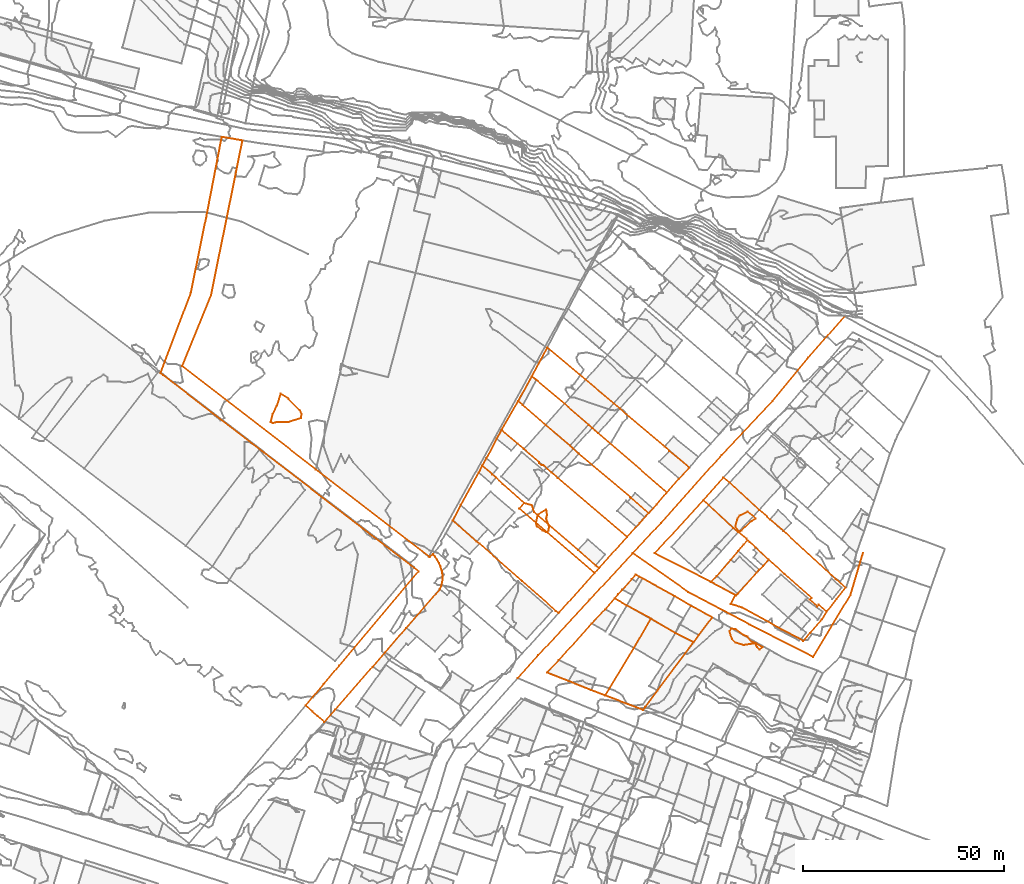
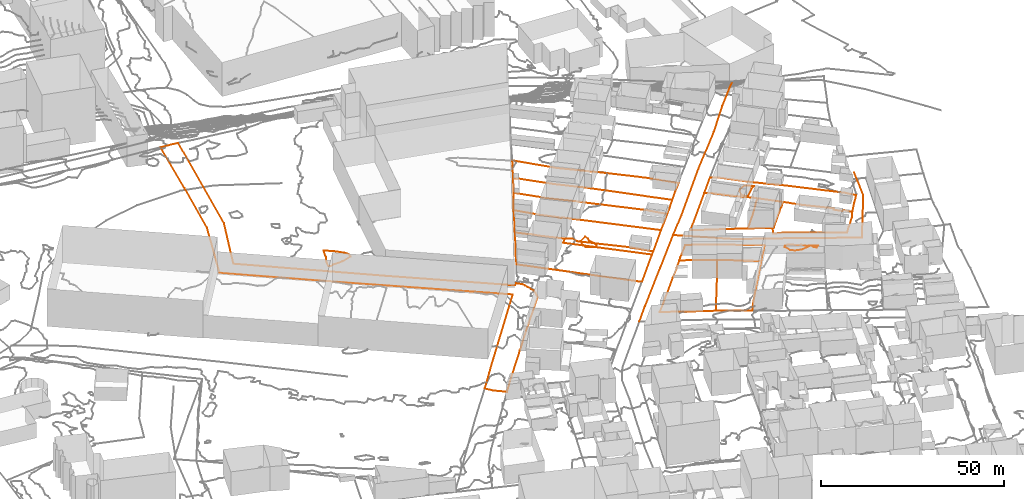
# Not in any storey, part 259 of 419: 21 proxies.
"""IFC2X3 model written with IfcOpenShell, lengths in metres."""

from ifc_helpers import new_model, entity, si_unit, frame, origin_with_axes, place, context, subcontext, project, element, save


model = new_model("IFC2X3")

# Units and contexts
model_context = context("Model", 3, precision=1e-05, world=origin_with_axes())
body_context = subcontext(model_context, "Body", "Model", "MODEL_VIEW")
ifc_project = project(units=[si_unit("AREAUNIT", "SQUARE_METRE"), si_unit("LENGTHUNIT", "METRE")], contexts=[model_context])

# Proxies
proxy_1_placement = place(None, frame((890.9920204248, 221.1976909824, 79.6), z_axis=(0.0, 0.0, 1.0), x_axis=(1.0, 0.0, 0.0)))
element("IfcBuildingElementProxy", 1, at=proxy_1_placement, Name="Route 211", ObjectType="NOTDEFINED", context=body_context, shape_type="GeometricCurveSet", body=[
    entity("IfcGeometricCurveSet", [entity("IfcPolyline", [entity("IfcCartesianPoint", [28.6, 31.1000000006, 0.0]), entity("IfcCartesianPoint", [17.9, 19.5, 0.0]), entity("IfcCartesianPoint", [5.1, 5.7000000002, 0.0]), entity("IfcCartesianPoint", [0.0, 0.0, 0.0])])]),
])
proxy_2_placement = place(None, frame((919.5920204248, 252.2976909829, 79.6), z_axis=(0.0, 0.0, 1.0), x_axis=(1.0, 0.0, 0.0)))
element("IfcBuildingElementProxy", 2, at=proxy_2_placement, Name="Route 225", ObjectType="NOTDEFINED", context=body_context, shape_type="GeometricCurveSet", body=[
    entity("IfcGeometricCurveSet", [entity("IfcPolyline", [entity("IfcCartesianPoint", [57.3, 0.2999999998, 1.0]), entity("IfcCartesianPoint", [54.1, -10.4000000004, 0.7]), entity("IfcCartesianPoint", [44.8, -25.8000000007, -0.9]), entity("IfcCartesianPoint", [29.1, -17.8000000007, -0.4]), entity("IfcCartesianPoint", [13.8, -9.7000000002, -0.3]), entity("IfcCartesianPoint", [0.0, 0.0, 0.0])])]),
])
proxy_3_placement = place(None, frame((919.5920204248, 252.2976909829, 79.6), z_axis=(0.0, 0.0, 1.0), x_axis=(1.0, 0.0, 0.0)))
element("IfcBuildingElementProxy", 3, at=proxy_3_placement, Name="Route 309", ObjectType="NOTDEFINED", context=body_context, shape_type="GeometricCurveSet", body=[
    entity("IfcGeometricCurveSet", [entity("IfcPolyline", [entity("IfcCartesianPoint", [52.6, 58.7999999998, -2.9]), entity("IfcCartesianPoint", [43.6, 48.5999999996, -1.7]), entity("IfcCartesianPoint", [34.7, 37.7999999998, -0.6]), entity("IfcCartesianPoint", [22.1, 24.3999999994, -0.4]), entity("IfcCartesianPoint", [7.0, 7.5, -0.3]), entity("IfcCartesianPoint", [0.0, 0.0, 0.0])])]),
])
proxy_4_placement = place(None, frame((802.1720204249, 297.0576909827, 81.0061424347), z_axis=(0.0, 0.0, 1.0), x_axis=(1.0, 0.0, 0.0)))
element("IfcBuildingElementProxy", 4, at=proxy_4_placement, Name="Cadastre 125", ObjectType="NOTDEFINED", context=body_context, shape_type="GeometricCurveSet", body=[
    entity("IfcGeometricCurveSet", [entity("IfcPolyline", [entity("IfcCartesianPoint", [36.0599999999, -82.6600000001, -1.1881410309]), entity("IfcCartesianPoint", [40.5599999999, -77.3200000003, -0.8971972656]), entity("IfcCartesianPoint", [44.46, -72.6900000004, -0.4227807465]), entity("IfcCartesianPoint", [64.1499999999, -49.2999999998, 0.1599864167]), entity("IfcCartesianPoint", [25.75, -19.8300000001, -0.0378355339]), entity("IfcCartesianPoint", [0.6299999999, -0.5200000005, 0.0050272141]), entity("IfcCartesianPoint", [0.0, 0.0, 0.0]), entity("IfcCartesianPoint", [7.5499999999, 19.9100000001, 0.4123396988]), entity("IfcCartesianPoint", [11.4199999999, 38.9400000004, 0.7218559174]), entity("IfcCartesianPoint", [15.25, 58.71, 0.9673117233]), entity("IfcCartesianPoint", [20.37, 57.8099999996, 1.1653908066]), entity("IfcCartesianPoint", [12.59, 19.3300000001, 0.4735268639]), entity("IfcCartesianPoint", [5.3999999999, 1.71, 0.0499853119]), entity("IfcCartesianPoint", [38.62, -23.9500000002, -0.05664422]), entity("IfcCartesianPoint", [66.73, -45.6600000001, 0.1138603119]), entity("IfcCartesianPoint", [66.8899999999, -45.7800000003, 0.124095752]), entity("IfcCartesianPoint", [67.7599999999, -45.0300000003, 0.0634591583]), entity("IfcCartesianPoint", [68.3099999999, -45.6500000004, 0.1130602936]), entity("IfcCartesianPoint", [68.7799999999, -46.3499999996, 0.1463409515]), entity("IfcCartesianPoint", [69.24, -47.1900000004, 0.1518660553]), entity("IfcCartesianPoint", [69.61, -48.1100000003, 0.0489033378]), entity("IfcCartesianPoint", [69.96, -49.2300000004, -0.0370956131]), entity("IfcCartesianPoint", [70.1799999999, -50.2800000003, -0.0241320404]), entity("IfcCartesianPoint", [70.1499999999, -51.3799999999, -0.0537529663]), entity("IfcCartesianPoint", [69.8999999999, -52.5599999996, 0.0067378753]), entity("IfcCartesianPoint", [69.45, -53.79, 0.0761588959]), entity("IfcCartesianPoint", [61.0699999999, -63.3700000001, 0.1166873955]), entity("IfcCartesianPoint", [55.7999999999, -69.4800000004, 0.0792553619]), entity("IfcCartesianPoint", [52.71, -73.04, -0.2551417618]), entity("IfcCartesianPoint", [43.45, -83.6900000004, -0.7202065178]), entity("IfcCartesianPoint", [40.73, -86.7199999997, -1.4911015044]), entity("IfcCartesianPoint", [39.09, -85.3200000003, -1.4730351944]), entity("IfcCartesianPoint", [37.7699999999, -84.1900000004, -1.5097253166]), entity("IfcCartesianPoint", [36.0599999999, -82.6600000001, -1.1881410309])])]),
])
proxy_5_placement = place(None, frame((874.8520204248, 260.377690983, 80.5659312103), z_axis=(0.0, 0.0, 1.0), x_axis=(1.0, 0.0, 0.0)))
element("IfcBuildingElementProxy", 5, at=proxy_5_placement, Name="Cadastre 135", ObjectType="NOTDEFINED", context=body_context, shape_type="GeometricCurveSet", body=[
    entity("IfcGeometricCurveSet", [entity("IfcPolyline", [entity("IfcCartesianPoint", [0.0, 0.0, 0.0]), entity("IfcCartesianPoint", [1.97, 3.8399999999, -0.1697979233]), entity("IfcCartesianPoint", [6.4300000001, 11.8899999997, -0.1879224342]), entity("IfcCartesianPoint", [7.3200000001, 13.6299999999, -0.1724313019]), entity("IfcCartesianPoint", [9.83, 11.4799999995, -0.2291045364]), entity("IfcCartesianPoint", [10.72, 10.6699999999, -0.1506410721]), entity("IfcCartesianPoint", [12.41, 9.0899999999, -0.2661220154]), entity("IfcCartesianPoint", [17.73, 4.3499999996, -0.2363999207]), entity("IfcCartesianPoint", [16.49, 3.0199999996, -0.3909338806]), entity("IfcCartesianPoint", [35.1900000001, -13.0800000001, -1.1275797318]), entity("IfcCartesianPoint", [26.28, -23.0200000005, -1.0525640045]), entity("IfcCartesianPoint", [25.6, -22.4400000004, -1.0268415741]), entity("IfcCartesianPoint", [17.22, -15.0700000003, -0.7350625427]), entity("IfcCartesianPoint", [6.63, -5.75, -0.2971978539]), entity("IfcCartesianPoint", [5.9, -5.2700000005, -0.2106531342]), entity("IfcCartesianPoint", [0.0, 0.0, 0.0])])]),
])
proxy_6_placement = place(None, frame((882.1720204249, 274.0076909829, 80.3934999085), z_axis=(0.0, 0.0, 1.0), x_axis=(1.0, 0.0, 0.0)))
element("IfcBuildingElementProxy", 6, at=proxy_6_placement, Name="Cadastre 140", ObjectType="NOTDEFINED", context=body_context, shape_type="GeometricCurveSet", body=[
    entity("IfcGeometricCurveSet", [entity("IfcPolyline", [entity("IfcCartesianPoint", [0.0, 0.0, 0.0]), entity("IfcCartesianPoint", [1.0599999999, 1.8499999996, 0.0182765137]), entity("IfcCartesianPoint", [3.62, 6.71, 0.0169789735]), entity("IfcCartesianPoint", [4.7599999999, 8.8899999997, 0.3666018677]), entity("IfcCartesianPoint", [8.7599999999, 5.4500000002, -0.0576865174]), entity("IfcCartesianPoint", [10.36, 4.1299999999, -0.2642066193]), entity("IfcCartesianPoint", [14.12, 0.8700000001, -0.3478988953]), entity("IfcCartesianPoint", [14.11, 0.6200000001, -0.352699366]), entity("IfcCartesianPoint", [14.74, 0.1699999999, -0.3742998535]), entity("IfcCartesianPoint", [15.1, 0.2000000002, -0.3808991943]), entity("IfcCartesianPoint", [17.25, -1.7400000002, -0.455477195]), entity("IfcCartesianPoint", [18.7699999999, -3.0200000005, -0.4890596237]), entity("IfcCartesianPoint", [35.95, -17.7300000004, -1.0575199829]), entity("IfcCartesianPoint", [29.0299999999, -25.4300000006, -1.029699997]), entity("IfcCartesianPoint", [28.1599999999, -24.8100000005, -0.9295803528]), entity("IfcCartesianPoint", [23.8199999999, -20.9700000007, -0.5182984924]), entity("IfcCartesianPoint", [12.9399999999, -11.5800000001, -0.4377741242]), entity("IfcCartesianPoint", [12.3899999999, -9.8500000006, -0.3820946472]), entity("IfcCartesianPoint", [10.4099999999, -9.2800000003, -0.0639686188]), entity("IfcCartesianPoint", [5.09, -4.54, -0.0936907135]), entity("IfcCartesianPoint", [3.3999999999, -2.96, 0.0217902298]), entity("IfcCartesianPoint", [2.5099999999, -2.1500000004, -0.0566732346]), entity("IfcCartesianPoint", [0.0, 0.0, 0.0])])]),
])
proxy_7_placement = place(None, frame((891.3420204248, 263.3976909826, 80.1749973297), z_axis=(0.0, 0.0, 1.0), x_axis=(1.0, 0.0, 0.0)))
element("IfcBuildingElementProxy", 7, at=proxy_7_placement, Name="Cadastre 141", ObjectType="NOTDEFINED", context=body_context, shape_type="GeometricCurveSet", body=[
    entity("IfcGeometricCurveSet", [entity("IfcPolyline", [entity("IfcCartesianPoint", [1.24, 1.3300000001, 0.15453396]), entity("IfcCartesianPoint", [3.22, 0.7599999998, -0.1635920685]), entity("IfcCartesianPoint", [3.77, -0.9699999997, -0.2192715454]), entity("IfcCartesianPoint", [14.65, -10.3600000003, -0.2997959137]), entity("IfcCartesianPoint", [18.99, -14.2000000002, -0.7110777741]), entity("IfcCartesianPoint", [19.86, -14.8200000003, -0.8111974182]), entity("IfcCartesianPoint", [18.7000000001, -16.0999999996, -0.7366458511]), entity("IfcCartesianPoint", [0.0, 0.0, 0.0]), entity("IfcCartesianPoint", [1.24, 1.3300000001, 0.15453396])])]),
])
proxy_8_placement = place(None, frame((886.9320204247, 282.8976909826, 80.7601017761), z_axis=(0.0, 0.0, 1.0), x_axis=(1.0, 0.0, 0.0)))
element("IfcBuildingElementProxy", 8, at=proxy_8_placement, Name="Cadastre 142", ObjectType="NOTDEFINED", context=body_context, shape_type="GeometricCurveSet", body=[
    entity("IfcGeometricCurveSet", [entity("IfcPolyline", [entity("IfcCartesianPoint", [0.0, 0.0, 0.0]), entity("IfcCartesianPoint", [4.15, 7.1299999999, 0.0202536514]), entity("IfcCartesianPoint", [5.3300000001, 6.1799999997, -0.0883565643]), entity("IfcCartesianPoint", [10.9900000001, 1.2199999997, -0.5075729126]), entity("IfcCartesianPoint", [17.02, -3.9399999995, -0.5081487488]), entity("IfcCartesianPoint", [17.8600000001, -4.5999999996, -0.5658999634]), entity("IfcCartesianPoint", [19.2200000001, -5.9199999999, -0.5851026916]), entity("IfcCartesianPoint", [31.9800000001, -16.6299999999, -1.0184043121]), entity("IfcCartesianPoint", [32.3, -16.9199999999, -1.0579034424]), entity("IfcCartesianPoint", [36.5600000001, -20.7199999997, -1.4826845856]), entity("IfcCartesianPoint", [34.41, -23.0999999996, -1.4436024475]), entity("IfcCartesianPoint", [31.1900000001, -26.6200000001, -1.4241218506]), entity("IfcCartesianPoint", [14.01, -11.9100000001, -0.8556614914]), entity("IfcCartesianPoint", [12.4900000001, -10.6299999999, -0.8220790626]), entity("IfcCartesianPoint", [10.3400000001, -8.6899999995, -0.747501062]), entity("IfcCartesianPoint", [9.9800000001, -8.7199999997, -0.7409017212]), entity("IfcCartesianPoint", [9.3500000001, -8.2699999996, -0.7193012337]), entity("IfcCartesianPoint", [9.3600000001, -8.0199999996, -0.7145007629]), entity("IfcCartesianPoint", [5.6000000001, -4.7599999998, -0.6308084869]), entity("IfcCartesianPoint", [4.0, -3.4399999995, -0.424288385]), entity("IfcCartesianPoint", [0.0, 0.0, 0.0])])]),
])
proxy_9_placement = place(None, frame((891.0820204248, 290.0276909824, 80.7803554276), z_axis=(0.0, 0.0, 1.0), x_axis=(1.0, 0.0, 0.0)))
element("IfcBuildingElementProxy", 9, at=proxy_9_placement, Name="Cadastre 143", ObjectType="NOTDEFINED", context=body_context, shape_type="GeometricCurveSet", body=[
    entity("IfcGeometricCurveSet", [entity("IfcPolyline", [entity("IfcCartesianPoint", [0.0, 0.0, 0.0]), entity("IfcCartesianPoint", [3.37, 6.1900000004, -0.0436612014]), entity("IfcCartesianPoint", [4.55, 5.29, -0.0422414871]), entity("IfcCartesianPoint", [11.52, -0.6299999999, -0.6011551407]), entity("IfcCartesianPoint", [17.51, -5.8700000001, -0.6207536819]), entity("IfcCartesianPoint", [18.36, -6.6200000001, -0.5824276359]), entity("IfcCartesianPoint", [19.88, -7.9399999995, -0.6405150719]), entity("IfcCartesianPoint", [36.9500000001, -22.6499999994, -1.5485561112]), entity("IfcCartesianPoint", [34.4, -25.6600000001, -1.5257194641]), entity("IfcCartesianPoint", [32.41, -27.8499999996, -1.502938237]), entity("IfcCartesianPoint", [28.15, -24.0499999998, -1.0781570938]), entity("IfcCartesianPoint", [27.8300000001, -23.7599999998, -1.0386579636]), entity("IfcCartesianPoint", [15.0700000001, -13.0499999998, -0.6053563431]), entity("IfcCartesianPoint", [13.7100000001, -11.7299999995, -0.5861536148]), entity("IfcCartesianPoint", [12.87, -11.0699999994, -0.5284024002]), entity("IfcCartesianPoint", [6.8400000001, -5.9100000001, -0.527826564]), entity("IfcCartesianPoint", [1.1800000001, -0.9500000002, -0.1086102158]), entity("IfcCartesianPoint", [0.0, 0.0, 0.0])])]),
])
proxy_10_placement = place(None, frame((894.4520204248, 296.2176909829, 80.7366942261), z_axis=(0.0, 0.0, 1.0), x_axis=(1.0, 0.0, 0.0)))
element("IfcBuildingElementProxy", 10, at=proxy_10_placement, Name="Cadastre 144", ObjectType="NOTDEFINED", context=body_context, shape_type="GeometricCurveSet", body=[
    entity("IfcGeometricCurveSet", [entity("IfcPolyline", [entity("IfcCartesianPoint", [0.0, 0.0, 0.0]), entity("IfcCartesianPoint", [3.88, 7.1799999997, 0.2611033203]), entity("IfcCartesianPoint", [13.4, -0.8300000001, -0.7990923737]), entity("IfcCartesianPoint", [20.36, -6.7000000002, -0.7703575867]), entity("IfcCartesianPoint", [21.9300000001, -8.0600000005, -0.709705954]), entity("IfcCartesianPoint", [33.0800000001, -17.4500000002, -0.9741509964]), entity("IfcCartesianPoint", [34.2100000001, -18.5200000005, -1.0394968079]), entity("IfcCartesianPoint", [39.1900000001, -22.7000000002, -1.5664310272]), entity("IfcCartesianPoint", [36.5900000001, -25.4699999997, -1.542144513]), entity("IfcCartesianPoint", [33.5800000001, -28.8399999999, -1.5048949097]), entity("IfcCartesianPoint", [16.51, -14.1299999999, -0.5968538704]), entity("IfcCartesianPoint", [14.99, -12.8100000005, -0.5387664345]), entity("IfcCartesianPoint", [14.14, -12.0600000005, -0.5770924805]), entity("IfcCartesianPoint", [8.15, -6.8200000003, -0.5574939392]), entity("IfcCartesianPoint", [1.1800000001, -0.9000000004, 0.0014197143]), entity("IfcCartesianPoint", [0.0, 0.0, 0.0])])]),
])
proxy_11_placement = place(None, frame((898.2420204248, 222.5976909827, 79.3320999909), z_axis=(0.0, 0.0, 1.0), x_axis=(1.0, 0.0, 0.0)))
element("IfcBuildingElementProxy", 11, at=proxy_11_placement, Name="Cadastre 145", ObjectType="NOTDEFINED", context=body_context, shape_type="GeometricCurveSet", body=[
    entity("IfcGeometricCurveSet", [entity("IfcPolyline", [entity("IfcCartesianPoint", [16.79, 18.4100000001, 0.219586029]), entity("IfcCartesianPoint", [19.86, 16.6799999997, 0.3203011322]), entity("IfcCartesianPoint", [25.84, 13.4100000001, 0.3000212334]), entity("IfcCartesianPoint", [21.6, 6.0599999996, 0.1330001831]), entity("IfcCartesianPoint", [14.46, -5.6900000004, -1.1164365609]), entity("IfcCartesianPoint", [11.0, -4.3600000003, -0.8966195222]), entity("IfcCartesianPoint", [5.35, -2.1100000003, -0.355900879]), entity("IfcCartesianPoint", [0.0, 0.0, 0.0]), entity("IfcCartesianPoint", [2.97, 3.0800000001, 0.2554347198]), entity("IfcCartesianPoint", [11.1, 12.1600000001, 0.1529988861]), entity("IfcCartesianPoint", [14.47, 15.71, 0.1364913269]), entity("IfcCartesianPoint", [16.79, 18.4100000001, 0.219586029])])]),
])
proxy_12_placement = place(None, frame((915.0320204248, 241.0076909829, 79.5516860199), z_axis=(0.0, 0.0, 1.0), x_axis=(1.0, 0.0, 0.0)))
element("IfcBuildingElementProxy", 12, at=proxy_12_placement, Name="Cadastre 150", ObjectType="NOTDEFINED", context=body_context, shape_type="GeometricCurveSet", body=[
    entity("IfcGeometricCurveSet", [entity("IfcPolyline", [entity("IfcCartesianPoint", [24.2999999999, -4.6900000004, -0.5025441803]), entity("IfcCartesianPoint", [20.9299999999, -9.1299999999, -0.3812574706]), entity("IfcCartesianPoint", [19.64, -10.8900000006, -0.4404845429]), entity("IfcCartesianPoint", [15.11, -8.5800000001, -0.1146834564]), entity("IfcCartesianPoint", [9.0499999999, -5.0, 0.0804352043]), entity("IfcCartesianPoint", [3.0699999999, -1.7300000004, 0.1007151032]), entity("IfcCartesianPoint", [0.0, 0.0, 0.0]), entity("IfcCartesianPoint", [0.95, 1.0599999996, -0.0290852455]), entity("IfcCartesianPoint", [1.95, 2.1600000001, -0.0854903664]), entity("IfcCartesianPoint", [4.33, 4.7999999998, -0.1962304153]), entity("IfcCartesianPoint", [5.2699999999, 5.8999999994, -0.23904309]), entity("IfcCartesianPoint", [6.1599999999, 5.3899999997, -0.2436843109]), entity("IfcCartesianPoint", [6.99, 4.9799999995, -0.2253205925]), entity("IfcCartesianPoint", [14.95, 0.5699999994, -0.246664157]), entity("IfcCartesianPoint", [19.0399999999, -1.8399999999, -0.3968131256]), entity("IfcCartesianPoint", [24.2999999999, -4.6900000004, -0.5025441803])])]),
])
proxy_13_placement = place(None, frame((912.7020204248, 216.9076909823, 78.2156634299), z_axis=(0.0, 0.0, 1.0), x_axis=(1.0, 0.0, 0.0)))
element("IfcBuildingElementProxy", 13, at=proxy_13_placement, Name="Cadastre 151", ObjectType="NOTDEFINED", context=body_context, shape_type="GeometricCurveSet", body=[
    entity("IfcGeometricCurveSet", [entity("IfcPolyline", [entity("IfcCartesianPoint", [21.9700000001, 13.21, 0.8955380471]), entity("IfcCartesianPoint", [13.0, 1.1800000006, 0.51953911]), entity("IfcCartesianPoint", [9.98, -2.8599999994, -0.4179345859]), entity("IfcCartesianPoint", [9.4400000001, -3.5999999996, -1.0886429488]), entity("IfcCartesianPoint", [0.0, 0.0, 0.0]), entity("IfcCartesianPoint", [7.14, 11.75, 1.249436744]), entity("IfcCartesianPoint", [11.38, 19.1000000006, 1.4164577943]), entity("IfcCartesianPoint", [17.4400000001, 15.5200000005, 1.2213391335]), entity("IfcCartesianPoint", [21.9700000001, 13.21, 0.8955380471])])]),
])
proxy_14_placement = place(None, frame((925.0620204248, 252.2376909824, 79.3228123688), z_axis=(0.0, 0.0, 1.0), x_axis=(1.0, 0.0, 0.0)))
element("IfcBuildingElementProxy", 14, at=proxy_14_placement, Name="Cadastre 160", ObjectType="NOTDEFINED", context=body_context, shape_type="GeometricCurveSet", body=[
    entity("IfcGeometricCurveSet", [entity("IfcPolyline", [entity("IfcCartesianPoint", [13.9400000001, -7.1099999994, 0.063736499]), entity("IfcCartesianPoint", [0.0, 0.0, 0.0]), entity("IfcCartesianPoint", [11.9600000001, 13.1600000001, 0.2774893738]), entity("IfcCartesianPoint", [13.4400000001, 11.96, 0.450369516]), entity("IfcCartesianPoint", [19.42, 6.2800000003, 0.594817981]), entity("IfcCartesianPoint", [20.76, 5.29, 0.5975999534]), entity("IfcCartesianPoint", [22.8, 3.6200000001, 0.5831697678]), entity("IfcCartesianPoint", [23.1000000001, 3.2200000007, 0.574168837]), entity("IfcCartesianPoint", [22.04, 2.21, 0.4606865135]), entity("IfcCartesianPoint", [20.7100000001, 0.5300000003, 0.2932839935]), entity("IfcCartesianPoint", [18.8, -1.6799999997, 0.0777136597]), entity("IfcCartesianPoint", [15.42, -5.6200000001, 0.0404881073]), entity("IfcCartesianPoint", [13.9400000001, -7.1099999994, 0.063736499])])]),
])
proxy_15_placement = place(None, frame((939.0020204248, 245.127690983, 79.3865488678), z_axis=(0.0, 0.0, 1.0), x_axis=(1.0, 0.0, 0.0)))
element("IfcBuildingElementProxy", 15, at=proxy_15_placement, Name="Cadastre 162", ObjectType="NOTDEFINED", context=body_context, shape_type="GeometricCurveSet", body=[
    entity("IfcGeometricCurveSet", [entity("IfcPolyline", [entity("IfcCartesianPoint", [0.0, 0.0, 0.0]), entity("IfcCartesianPoint", [1.48, 1.4899999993, -0.0232483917]), entity("IfcCartesianPoint", [4.86, 5.4299999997, 0.0139771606]), entity("IfcCartesianPoint", [6.77, 7.6399999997, 0.2295474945]), entity("IfcCartesianPoint", [8.1, 9.3199999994, 0.3969500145]), entity("IfcCartesianPoint", [9.16, 10.3300000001, 0.5104323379]), entity("IfcCartesianPoint", [9.64, 9.9099999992, 0.4969317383]), entity("IfcCartesianPoint", [11.16, 8.5099999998, 0.5121913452]), entity("IfcCartesianPoint", [14.36, 5.5, 0.452383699]), entity("IfcCartesianPoint", [12.96, 3.9399999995, 0.2952309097]), entity("IfcCartesianPoint", [12.01, 3.0099999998, 0.2076515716]), entity("IfcCartesianPoint", [11.39, 2.2999999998, 0.1521730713]), entity("IfcCartesianPoint", [6.62, -2.9700000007, -0.0563911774]), entity("IfcCartesianPoint", [6.28, -3.3700000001, -0.0638637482]), entity("IfcCartesianPoint", [6.08, -3.2700000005, -0.069093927]), entity("IfcCartesianPoint", [0.0, 0.0, 0.0])])]),
])
proxy_16_placement = place(None, frame((937.0220204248, 265.3976909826, 79.6003017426), z_axis=(0.0, 0.0, 1.0), x_axis=(1.0, 0.0, 0.0)))
element("IfcBuildingElementProxy", 16, at=proxy_16_placement, Name="Cadastre 168", ObjectType="NOTDEFINED", context=body_context, shape_type="GeometricCurveSet", body=[
    entity("IfcGeometricCurveSet", [entity("IfcPolyline", [entity("IfcCartesianPoint", [16.34, -14.7699999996, 0.2386308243]), entity("IfcCartesianPoint", [13.14, -11.7599999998, 0.2984384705]), entity("IfcCartesianPoint", [11.62, -10.3600000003, 0.2831788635]), entity("IfcCartesianPoint", [11.14, -9.9399999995, 0.2966794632]), entity("IfcCartesianPoint", [10.84, -9.54, 0.305680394]), entity("IfcCartesianPoint", [8.7999999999, -7.8700000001, 0.3201105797]), entity("IfcCartesianPoint", [7.46, -6.8799999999, 0.3173286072]), entity("IfcCartesianPoint", [1.48, -1.2000000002, 0.1728801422]), entity("IfcCartesianPoint", [0.0, 0.0, 0.0]), entity("IfcCartesianPoint", [5.08, 5.71, -0.0749602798]), entity("IfcCartesianPoint", [6.6899999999, 4.3899999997, 0.1846584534]), entity("IfcCartesianPoint", [13.9399999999, -2.3600000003, 0.1281563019]), entity("IfcCartesianPoint", [15.9, -3.9799999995, 0.1390011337]), entity("IfcCartesianPoint", [16.6599999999, -4.7699999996, 0.1863273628]), entity("IfcCartesianPoint", [20.01, -7.6200000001, 0.2627944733]), entity("IfcCartesianPoint", [32.99, -19.54, 0.3820377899]), entity("IfcCartesianPoint", [35.46, -21.7299999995, 0.0533012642]), entity("IfcCartesianPoint", [33.1799999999, -24.54, -0.113595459]), entity("IfcCartesianPoint", [30.77, -27.6899999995, -0.295442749]), entity("IfcCartesianPoint", [28.8099999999, -25.96, 0.0060978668]), entity("IfcCartesianPoint", [28.4399999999, -26.3799999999, 0.002380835]), entity("IfcCartesianPoint", [26.5599999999, -24.6899999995, 0.1076239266]), entity("IfcCartesianPoint", [27.02, -24.2599999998, 0.1250995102]), entity("IfcCartesianPoint", [20.34, -18.3600000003, 0.0400039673]), entity("IfcCartesianPoint", [16.34, -14.7699999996, 0.2386308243])])]),
])
proxy_17_placement = place(None, frame((943.9020204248, 239.6576909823, 79.186893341), z_axis=(0.0, 0.0, 1.0), x_axis=(1.0, 0.0, 0.0)))
element("IfcBuildingElementProxy", 17, at=proxy_17_placement, Name="Cadastre 169", ObjectType="NOTDEFINED", context=body_context, shape_type="GeometricCurveSet", body=[
    entity("IfcGeometricCurveSet", [entity("IfcPolyline", [entity("IfcCartesianPoint", [1.1799999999, 2.2000000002, 0.1305615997]), entity("IfcCartesianPoint", [1.38, 2.1000000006, 0.1357917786]), entity("IfcCartesianPoint", [1.72, 2.5, 0.1432643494]), entity("IfcCartesianPoint", [6.49, 7.7700000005, 0.351828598]), entity("IfcCartesianPoint", [7.11, 8.4800000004, 0.4073070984]), entity("IfcCartesianPoint", [8.0599999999, 9.4100000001, 0.4948864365]), entity("IfcCartesianPoint", [9.46, 10.9700000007, 0.6520392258]), entity("IfcCartesianPoint", [13.46, 7.3799999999, 0.4534123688]), entity("IfcCartesianPoint", [20.14, 1.4800000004, 0.5385079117]), entity("IfcCartesianPoint", [19.6799999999, 1.0500000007, 0.5210323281]), entity("IfcCartesianPoint", [21.5599999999, -0.6399999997, 0.4157892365]), entity("IfcCartesianPoint", [21.9299999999, -0.2199999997, 0.4195062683]), entity("IfcCartesianPoint", [23.89, -1.9499999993, 0.1179656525]), entity("IfcCartesianPoint", [22.64, -3.9499999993, -0.0106295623]), entity("IfcCartesianPoint", [19.75, -7.1999999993, -0.230306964]), entity("IfcCartesianPoint", [18.09, -9.1899999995, -0.3120150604]), entity("IfcCartesianPoint", [12.72, -6.3300000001, -0.1564715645]), entity("IfcCartesianPoint", [2.89, -0.9099999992, -0.0311931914]), entity("IfcCartesianPoint", [0.0, 0.0, 0.0]), entity("IfcCartesianPoint", [1.1799999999, 2.2000000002, 0.1305615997])])]),
])
proxy_18_placement = place(None, frame((829.5919704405, 284.8976909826, 81.0), z_axis=(0.0, 0.0, 1.0), x_axis=(1.0, 0.0, 0.0)))
element("IfcBuildingElementProxy", 18, at=proxy_18_placement, Name="Contour 81.0 m", ObjectType="NOTDEFINED", context=body_context, shape_type="GeometricCurveSet", body=[
    entity("IfcGeometricCurveSet", [entity("IfcPolyline", [entity("IfcCartesianPoint", [4.5001499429, 0.0, 0.0]), entity("IfcCartesianPoint", [1.5000499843, -5.00036e-05, 0.0]), entity("IfcCartesianPoint", [0.5000499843, -0.3334181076, 0.0]), entity("IfcCartesianPoint", [0.0, 0.0, 0.0]), entity("IfcCartesianPoint", [0.5000249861, 2.0, 0.0]), entity("IfcCartesianPoint", [1.5000166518, 4.0, 0.0]), entity("IfcCartesianPoint", [2.5000499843, 7.0000111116, 0.0]), entity("IfcCartesianPoint", [4.5000499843, 5.7272853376, 0.0]), entity("IfcCartesianPoint", [7.2143824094, 3.0, 0.0]), entity("IfcCartesianPoint", [7.7000805, 2.0, 0.0]), entity("IfcCartesianPoint", [7.5000499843, 0.999966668, 0.0]), entity("IfcCartesianPoint", [4.5001499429, 0.0, 0.0])])]),
])
proxy_19_placement = place(None, frame((895.5465911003, 259.8976909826, 80.0), z_axis=(0.0, 0.0, 1.0), x_axis=(1.0, 0.0, 0.0)))
element("IfcBuildingElementProxy", 19, at=proxy_19_placement, Name="Contour 80.0 m", ObjectType="NOTDEFINED", context=body_context, shape_type="GeometricCurveSet", body=[
    entity("IfcGeometricCurveSet", [entity("IfcPolyline", [entity("IfcCartesianPoint", [3.0838998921, -2.0, 0.0]), entity("IfcCartesianPoint", [2.5454293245, -2.4117673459, 0.0]), entity("IfcCartesianPoint", [1.6704531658, -2.0, 0.0]), entity("IfcCartesianPoint", [0.2121383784, -1.0, 0.0]), entity("IfcCartesianPoint", [0.0, 0.0, 0.0]), entity("IfcCartesianPoint", [0.4545013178, 2.0, 0.0]), entity("IfcCartesianPoint", [2.5454293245, 3.1999694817, 0.0]), entity("IfcCartesianPoint", [2.7359107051, 2.0, 0.0]), entity("IfcCartesianPoint", [2.5454376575, 1.0, 0.0]), entity("IfcCartesianPoint", [3.2597072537, -1.0, 0.0]), entity("IfcCartesianPoint", [3.0838998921, -2.0, 0.0])])]),
])
proxy_20_placement = place(None, frame((945.0920104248, 258.8976909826, 80.0), z_axis=(0.0, 0.0, 1.0), x_axis=(1.0, 0.0, 0.0)))
element("IfcBuildingElementProxy", 20, at=proxy_20_placement, Name="Contour 80.0 m", ObjectType="NOTDEFINED", context=body_context, shape_type="GeometricCurveSet", body=[
    entity("IfcGeometricCurveSet", [entity("IfcPolyline", [entity("IfcCartesianPoint", [1.5000266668, -1.0, 0.0]), entity("IfcCartesianPoint", [1.00001, -1.2142779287, 0.0]), entity("IfcCartesianPoint", [0.0, 0.0, 0.0]), entity("IfcCartesianPoint", [0.499984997, 2.0, 0.0]), entity("IfcCartesianPoint", [1.00001, 2.6665818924, 0.0]), entity("IfcCartesianPoint", [3.00001, 3.6665818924, 0.0]), entity("IfcCartesianPoint", [5.09090648, 2.0, 0.0]), entity("IfcCartesianPoint", [4.00001, 1.4000152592, 0.0]), entity("IfcCartesianPoint", [1.5000266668, -1.0, 0.0])])]),
])
proxy_21_placement = place(None, frame((943.642031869, 232.8976909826, 79.0), z_axis=(0.0, 0.0, 1.0), x_axis=(1.0, 0.0, 0.0)))
element("IfcBuildingElementProxy", 21, at=proxy_21_placement, Name="Contour 79.0 m", ObjectType="NOTDEFINED", context=body_context, shape_type="GeometricCurveSet", body=[
    entity("IfcGeometricCurveSet", [entity("IfcPolyline", [entity("IfcCartesianPoint", [8.1999885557, -4.0, 0.0]), entity("IfcCartesianPoint", [7.4499885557, -4.5624910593, 0.0]), entity("IfcCartesianPoint", [6.8071547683, -4.0, 0.0]), entity("IfcCartesianPoint", [6.4499885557, -3.0000199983, 0.0]), entity("IfcCartesianPoint", [3.4499885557, -3.4545706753, 0.0]), entity("IfcCartesianPoint", [1.4499885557, -2.8333545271, 0.0]), entity("IfcCartesianPoint", [0.6166340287, -2.0, 0.0]), entity("IfcCartesianPoint", [0.0, 0.0, 0.0]), entity("IfcCartesianPoint", [0.4499885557, 0.5999999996, 0.0]), entity("IfcCartesianPoint", [1.4499885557, 0.5238147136, 0.0]), entity("IfcCartesianPoint", [3.4499885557, -0.9999944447, 0.0]), entity("IfcCartesianPoint", [4.4499885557, -1.3636426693, 0.0]), entity("IfcCartesianPoint", [5.4499885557, -2.5999847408, 0.0]), entity("IfcCartesianPoint", [6.4499985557, -3.0, 0.0]), entity("IfcCartesianPoint", [8.1999885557, -4.0, 0.0])])]),
])

save(model, "model.ifc")
